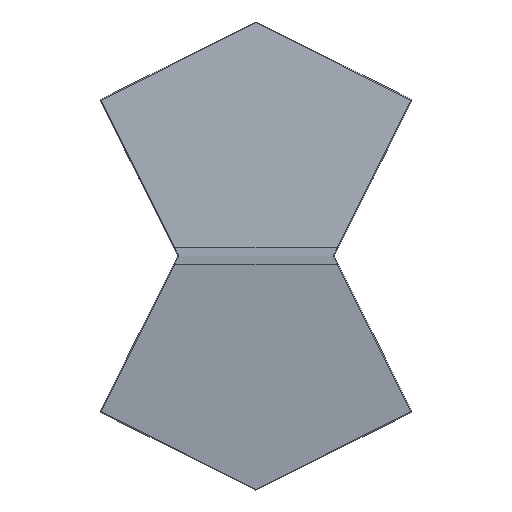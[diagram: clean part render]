
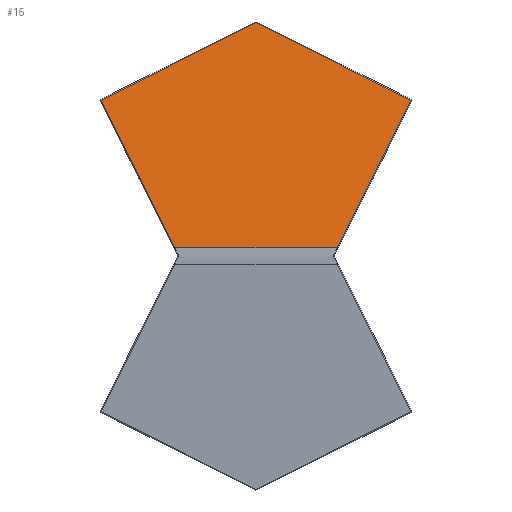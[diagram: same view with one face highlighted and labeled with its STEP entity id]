
A CAD part, top view. The second image highlights one B-rep face of the part: STEP entity #15.
In plain terms, the highlighted free-form (B-spline) face has degree [2, 1] with [3, 2] control points.
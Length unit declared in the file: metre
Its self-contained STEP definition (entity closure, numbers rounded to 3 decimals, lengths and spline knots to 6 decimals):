
#15=ADVANCED_FACE('',(#71),#609,.T.);
#71=FACE_OUTER_BOUND('',#127,.T.);
#127=EDGE_LOOP('',(#183,#184,#185,#186,#187,#188,#189));
#183=ORIENTED_EDGE('',*,*,#484,.T.);
#184=ORIENTED_EDGE('',*,*,#481,.T.);
#185=ORIENTED_EDGE('',*,*,#421,.T.);
#186=ORIENTED_EDGE('',*,*,#419,.T.);
#187=ORIENTED_EDGE('',*,*,#422,.T.);
#188=ORIENTED_EDGE('',*,*,#492,.T.);
#189=ORIENTED_EDGE('',*,*,#490,.T.);
#419=EDGE_CURVE('',#538,#537,#704,.T.);
#421=EDGE_CURVE('',#541,#538,#658,.T.);
#422=EDGE_CURVE('',#537,#542,#659,.T.);
#481=EDGE_CURVE('',#556,#541,#730,.T.);
#484=EDGE_CURVE('',#555,#556,#732,.T.);
#490=EDGE_CURVE('',#557,#555,#738,.T.);
#492=EDGE_CURVE('',#542,#557,#740,.T.);
#537=VERTEX_POINT('',#1453);
#538=VERTEX_POINT('',#1454);
#541=VERTEX_POINT('',#1457);
#542=VERTEX_POINT('',#1458);
#555=VERTEX_POINT('',#1471);
#556=VERTEX_POINT('',#1472);
#557=VERTEX_POINT('',#1473);
#609=(
BOUNDED_SURFACE()
B_SPLINE_SURFACE(2,1,((#849,#850),(#851,#852),(#853,#854)),
 .UNSPECIFIED.,.F.,.F.,.F.)
B_SPLINE_SURFACE_WITH_KNOTS((3,3),(2,2),(20.,287.361827),(0.,366.666667),
 .UNSPECIFIED.)
GEOMETRIC_REPRESENTATION_ITEM()
RATIONAL_B_SPLINE_SURFACE(((1.,1.),(1.,1.),(1.,1.)))
REPRESENTATION_ITEM('')
SURFACE()
);
#658=B_SPLINE_CURVE_WITH_KNOTS('',3,(#1521,#1522,#1523,#1524,#1525,#1526,
#1527,#1528,#1529,#1530,#1531,#1532),.UNSPECIFIED.,.F.,.F.,(4,1,1,1,1,1,
1,1,1,4),(0.,0.000447,0.000895,0.001345,
0.001799,0.002259,0.002724,0.003197,
0.003679,0.00417),.UNSPECIFIED.);
#659=B_SPLINE_CURVE_WITH_KNOTS('',3,(#1533,#1534,#1535,#1536,#1537,#1538,
#1539,#1540,#1541,#1542,#1543,#1544),.UNSPECIFIED.,.F.,.F.,(4,1,1,1,1,1,
1,1,1,4),(-0.00417,-0.003679,-0.003197,
-0.002724,-0.002259,-0.001799,-0.001345,
-0.000895,-0.000447,0.),.UNSPECIFIED.);
#704=(
BOUNDED_CURVE()
B_SPLINE_CURVE(1,(#1517,#1518),.UNSPECIFIED.,.F.,.F.)
B_SPLINE_CURVE_WITH_KNOTS((2,2),(88.078464,278.588202),
 .UNSPECIFIED.)
CURVE()
GEOMETRIC_REPRESENTATION_ITEM()
RATIONAL_B_SPLINE_CURVE((1.,1.))
REPRESENTATION_ITEM('')
);
#730=(
BOUNDED_CURVE()
B_SPLINE_CURVE(1,(#1737,#1738),.UNSPECIFIED.,.F.,.F.)
B_SPLINE_CURVE_WITH_KNOTS((2,2),(0.900734,195.792239),
 .UNSPECIFIED.)
CURVE()
GEOMETRIC_REPRESENTATION_ITEM()
RATIONAL_B_SPLINE_CURVE((1.,1.))
REPRESENTATION_ITEM('')
);
#732=(
BOUNDED_CURVE()
B_SPLINE_CURVE(1,(#1761,#1762),.UNSPECIFIED.,.F.,.F.)
B_SPLINE_CURVE_WITH_KNOTS((2,2),(0.455703,204.17852),
 .UNSPECIFIED.)
CURVE()
GEOMETRIC_REPRESENTATION_ITEM()
RATIONAL_B_SPLINE_CURVE((1.,1.))
REPRESENTATION_ITEM('')
);
#738=(
BOUNDED_CURVE()
B_SPLINE_CURVE(1,(#1776,#1777),.UNSPECIFIED.,.F.,.F.)
B_SPLINE_CURVE_WITH_KNOTS((2,2),(1.046139,204.768956),
 .UNSPECIFIED.)
CURVE()
GEOMETRIC_REPRESENTATION_ITEM()
RATIONAL_B_SPLINE_CURVE((1.,1.))
REPRESENTATION_ITEM('')
);
#740=(
BOUNDED_CURVE()
B_SPLINE_CURVE(1,(#1781,#1782),.UNSPECIFIED.,.F.,.F.)
B_SPLINE_CURVE_WITH_KNOTS((2,2),(-0.523075,194.36843),
 .UNSPECIFIED.)
CURVE()
GEOMETRIC_REPRESENTATION_ITEM()
RATIONAL_B_SPLINE_CURVE((1.,1.))
REPRESENTATION_ITEM('')
);
#849=CARTESIAN_POINT('',(-183.333333,275.,20.));
#850=CARTESIAN_POINT('',(183.333333,275.,20.));
#851=CARTESIAN_POINT('',(-183.333333,142.133074,34.729789));
#852=CARTESIAN_POINT('',(183.333333,142.133074,34.729789));
#853=CARTESIAN_POINT('',(-183.333333,9.266148,49.459577));
#854=CARTESIAN_POINT('',(183.333333,9.266148,49.459577));
#1453=CARTESIAN_POINT('',(95.254869,9.531618,49.430147));
#1454=CARTESIAN_POINT('',(-95.254869,9.531618,49.430147));
#1457=CARTESIAN_POINT('',(-95.258905,9.53073,49.430245));
#1458=CARTESIAN_POINT('',(95.258905,9.53073,49.430245));
#1471=CARTESIAN_POINT('',(0.,273.992152,20.111731));
#1472=CARTESIAN_POINT('',(-181.991693,182.996306,30.199641));
#1473=CARTESIAN_POINT('',(181.991693,182.996306,30.199641));
#1517=CARTESIAN_POINT('',(-95.254869,9.531618,49.430147));
#1518=CARTESIAN_POINT('',(95.254869,9.531618,49.430147));
#1521=CARTESIAN_POINT('',(-95.258905,9.53073,49.430245));
#1522=CARTESIAN_POINT('',(-95.258771,9.530796,49.430238));
#1523=CARTESIAN_POINT('',(-95.258501,9.530921,49.430224));
#1524=CARTESIAN_POINT('',(-95.258084,9.531085,49.430206));
#1525=CARTESIAN_POINT('',(-95.257656,9.531228,49.43019));
#1526=CARTESIAN_POINT('',(-95.257218,9.531348,49.430177));
#1527=CARTESIAN_POINT('',(-95.256769,9.531447,49.430166));
#1528=CARTESIAN_POINT('',(-95.256309,9.531523,49.430158));
#1529=CARTESIAN_POINT('',(-95.255838,9.531578,49.430151));
#1530=CARTESIAN_POINT('',(-95.255357,9.531611,49.430148));
#1531=CARTESIAN_POINT('',(-95.255033,9.531618,49.430147));
#1532=CARTESIAN_POINT('',(-95.254869,9.531618,49.430147));
#1533=CARTESIAN_POINT('',(95.254869,9.531618,49.430147));
#1534=CARTESIAN_POINT('',(95.255033,9.531618,49.430147));
#1535=CARTESIAN_POINT('',(95.255357,9.531611,49.430148));
#1536=CARTESIAN_POINT('',(95.255838,9.531578,49.430151));
#1537=CARTESIAN_POINT('',(95.256309,9.531523,49.430158));
#1538=CARTESIAN_POINT('',(95.256769,9.531447,49.430166));
#1539=CARTESIAN_POINT('',(95.257218,9.531348,49.430177));
#1540=CARTESIAN_POINT('',(95.257656,9.531228,49.43019));
#1541=CARTESIAN_POINT('',(95.258084,9.531085,49.430206));
#1542=CARTESIAN_POINT('',(95.258501,9.530921,49.430224));
#1543=CARTESIAN_POINT('',(95.258771,9.530796,49.430238));
#1544=CARTESIAN_POINT('',(95.258905,9.53073,49.430245));
#1737=CARTESIAN_POINT('',(-181.991693,182.996306,30.199641));
#1738=CARTESIAN_POINT('',(-95.258905,9.53073,49.430245));
#1761=CARTESIAN_POINT('',(0.,273.992152,20.111731));
#1762=CARTESIAN_POINT('',(-181.991693,182.996306,30.199641));
#1776=CARTESIAN_POINT('',(181.991693,182.996306,30.199641));
#1777=CARTESIAN_POINT('',(0.,273.992152,20.111731));
#1781=CARTESIAN_POINT('',(95.258905,9.53073,49.430245));
#1782=CARTESIAN_POINT('',(181.991693,182.996306,30.199641));
